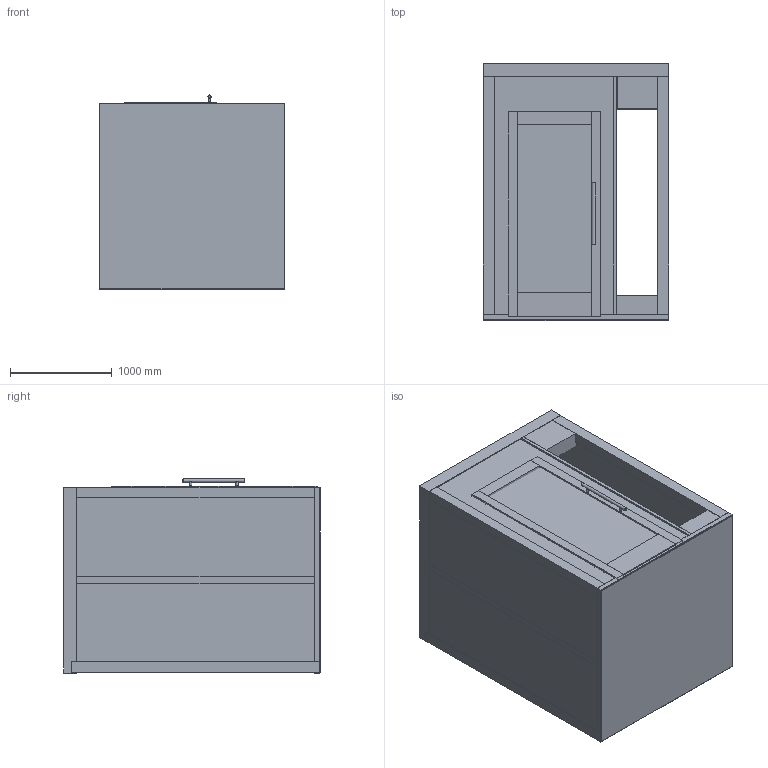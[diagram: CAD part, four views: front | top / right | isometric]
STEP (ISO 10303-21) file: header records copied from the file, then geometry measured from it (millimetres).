
FILE_DESCRIPTION(/* description */ (''),/* implementation_level */ '2;1');
FILE_NAME(/* name */ 'C:\Users\CLy\Desktop\DESKTOP\FZA-W.stp',/* time_stamp */ '2021-03-10T15:47:10-08:00',/* author */ ('CLy'),/* organization */ (''),/* preprocessor_version */ 'ST-DEVELOPER v18',/* originating_system */ 'Autodesk Inventor 2020',/* authorisation */ '');
FILE_SCHEMA (('AUTOMOTIVE_DESIGN { 1 0 10303 214 3 1 1 }'));
Length unit declared in the file: inch
Products named in the file (1): FZA-W (Ketiv reference 1)
Bounding box: 1830.37 x 2528.19 x 1910.09 mm (x, y, z)
Volume: 2003450312 mm3; surface area: 42816682.2 mm2
Topology: 6 solids, 6 shells, 168 faces, 476 edges, 320 vertices
Faces by surface type: plane 140, cylinder 12, torus 8, cone 4, bspline 4
Full cylindrical faces by diameter (mm): 6.35 x6, 25.4 x4, 31.75 x2
Entity records: 6442 total; most frequent: CARTESIAN_POINT 1799, ORIENTED_EDGE 944, DIRECTION 850, EDGE_CURVE 472, LINE 400, VECTOR 400, VERTEX_POINT 320, AXIS2_PLACEMENT_3D 225
